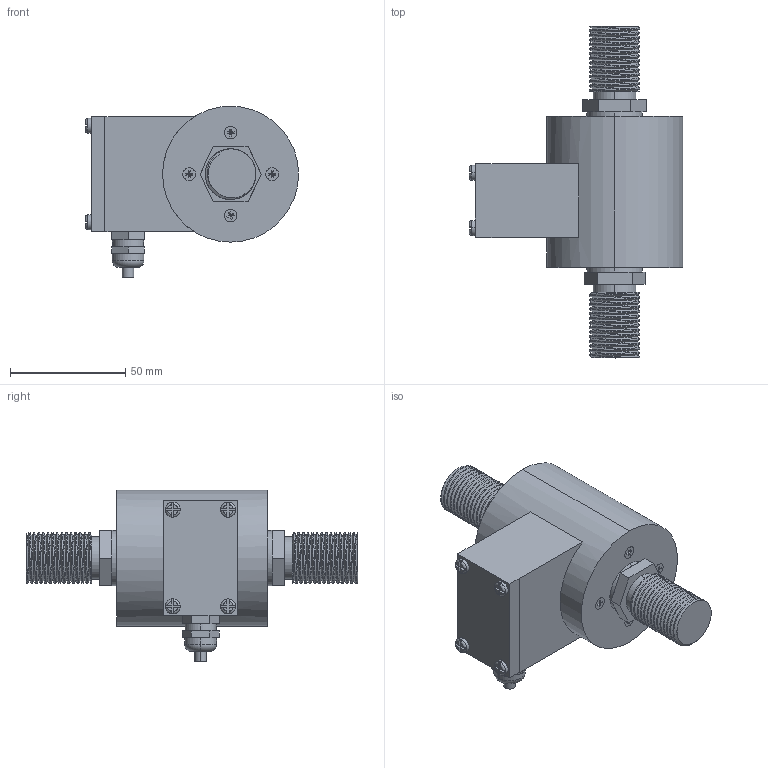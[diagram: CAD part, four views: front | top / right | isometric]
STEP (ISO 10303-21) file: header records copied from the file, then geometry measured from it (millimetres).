
FILE_DESCRIPTION (( 'STEP AP214' ), '1' );
FILE_NAME ('KT1101_K_20KN.STEP', '2014-04-24T09:06:49', ( '' ), ( '' ), 'SwSTEP 2.0', 'SolidWorks 2012', '' );
FILE_SCHEMA (( 'AUTOMOTIVE_DESIGN' ));
Length unit declared in the file: metre
Products named in the file (1): KT1101_K_20KN
Bounding box: 92.5 x 144 x 74.5 mm (x, y, z)
Volume: 266155.7 mm3; surface area: 33576.6 mm2
Topology: 1 solids, 1 shells, 283 faces, 686 edges, 431 vertices
Faces by surface type: plane 173, cylinder 88, torus 18, bspline 4
Entity records: 13825 total; most frequent: CARTESIAN_POINT 6765, ORIENTED_EDGE 1372, DIRECTION 1222, EDGE_CURVE 686, VERTEX_POINT 431, AXIS2_PLACEMENT_3D 416, VECTOR 390, LINE 390
